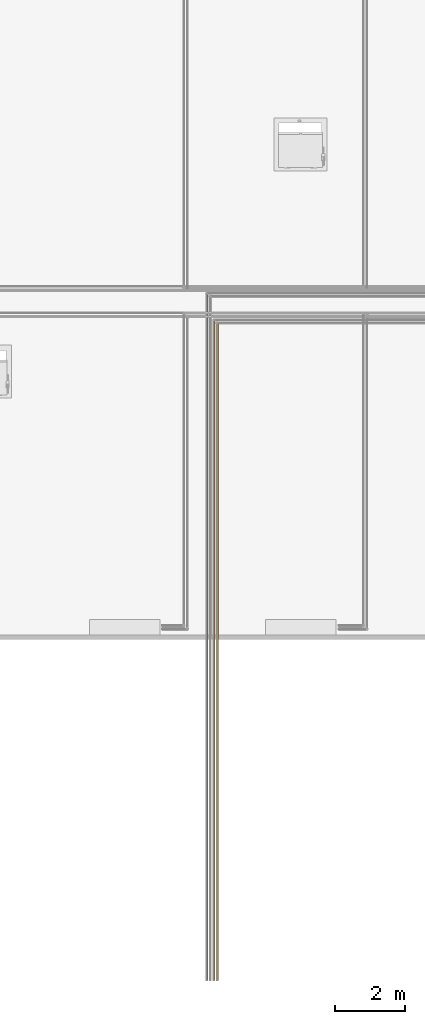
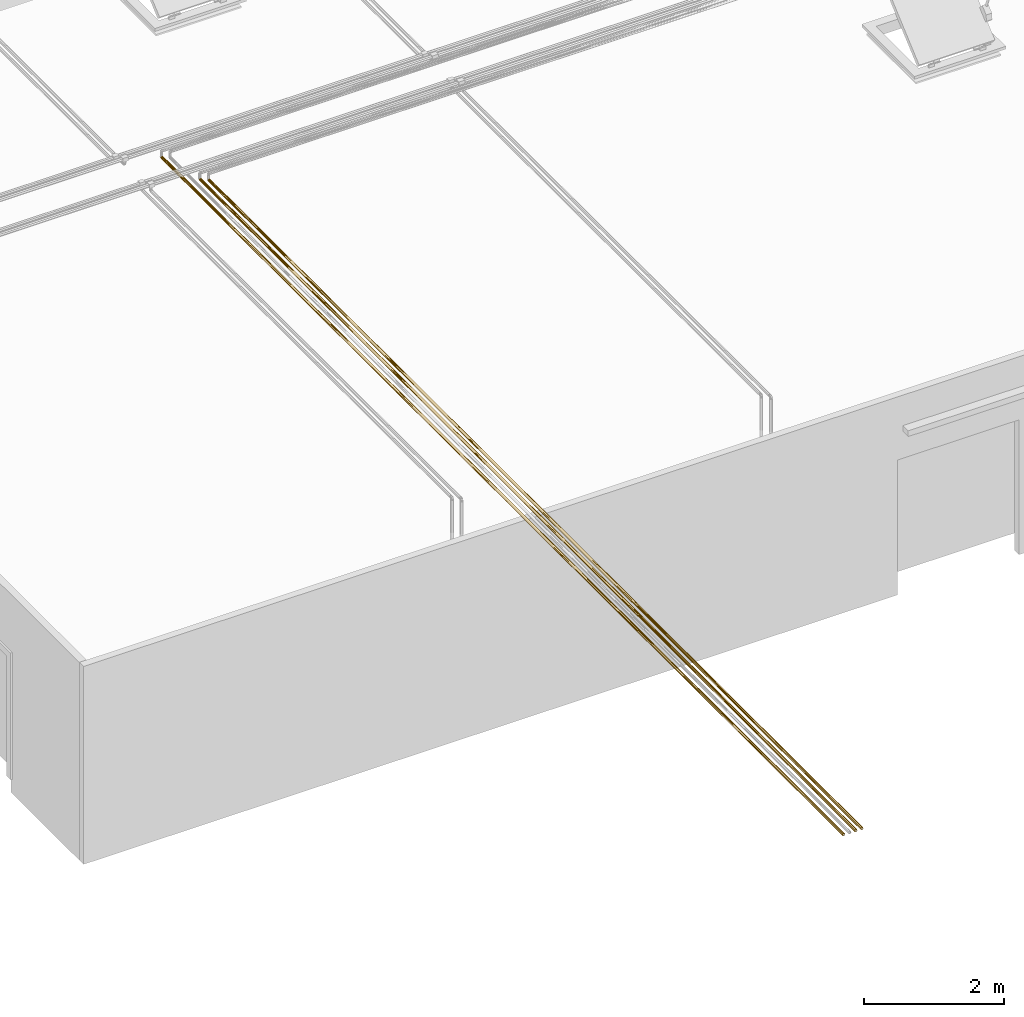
# One storey, part 98 of 652: 3 coverings.
"""IFC2X3 building model written with IfcOpenShell, lengths in millimetres."""

from ifc_helpers import new_model, entity, si_unit, converted_unit, direction, frame, origin, place, context, subcontext, project, spatial, faceted_brep, material, type_object, element, save


model = new_model("IFC2X3")

# Units and contexts
model_context = context("Model", 3, precision=0.01, world=frame((0.0, 0.0, 308426.39999999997)), true_north=direction((6.123233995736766e-17, 1.0)))
plan_context = context("Plan", 3, precision=0.01, world=frame((0.0, 0.0, 308426.39999999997)), true_north=direction((6.123233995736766e-17, 1.0)))
body_context = subcontext(model_context, "Body", "Model", "MODEL_VIEW")
ifc_project = project(units=[si_unit("LENGTHUNIT", "METRE", prefix="MILLI"), si_unit("AREAUNIT", "SQUARE_METRE"), si_unit("VOLUMEUNIT", "CUBIC_METRE"), converted_unit("PLANEANGLEUNIT", "DEGREE", entity("IfcPlaneAngleMeasure", 0.017453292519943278), si_unit("PLANEANGLEUNIT", "RADIAN"), dimensions=[0, 0, 0, 0, 0, 0, 0])], contexts=[model_context, plan_context])

# Site, building, storey
site_placement = place(None, origin())
site = spatial("IfcSite", under=ifc_project, at=site_placement, Name="Default", CompositionType="ELEMENT")
building_placement = place(site_placement, origin())
building = spatial("IfcBuilding", under=site, at=building_placement, CompositionType="ELEMENT")
storey_placement = place(building_placement, frame((0.0, 0.0, 1730.6999999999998)))
storey = spatial("IfcBuildingStorey", under=building, at=storey_placement, Name="EG_Produktion_FFB", CompositionType="ELEMENT", Elevation=1730.6999999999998)

# Coverings
ifc_material = material(Name="Dämmung - Armaflex-Schlauch")
covering_type = type_object("IfcCoveringType", Name="Rohrdämmung außen:Armaflex-Schlauch", PredefinedType="INSULATION")
covering_1_placement = place(storey_placement, frame((48024.64222775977, 21940.0, 3725.3577722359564)))
element("IfcCovering", 1, at=covering_1_placement, inside=storey, type_object=covering_type, material=ifc_material, Name="Rohrdämmung außen:Armaflex-Schlauch", ObjectType="Rohrdämmung außen:Armaflex-Schlauch", PredefinedType="INSULATION", context=body_context, shape_type="Brep", body=[
    faceted_brep([(9.787128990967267, 18717.04975000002, -7.40752223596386), (40.92841548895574, 18717.04975000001, -7.407522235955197), (43.95116498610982, 18717.04975000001, -11.448105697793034), (46.97391448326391, 18717.04975000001, -15.488689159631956), (47.971592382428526, 18717.04975000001, -20.076072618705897), (49.120272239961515, 18717.04975000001, -25.357772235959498), (47.08907098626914, 18717.04975000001, -30.261525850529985), (45.057869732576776, 18717.04975000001, -35.165279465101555), (42.160397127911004, 18717.04975000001, -42.16039712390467), (35.16527946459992, 18717.04975000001, -45.05786973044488), (30.261525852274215, 18717.04975000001, -47.08907098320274), (25.357772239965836, 18717.04975000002, -49.12027223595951), (20.45401862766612, 18717.04975000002, -47.08907098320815), (15.550265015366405, 18717.04975000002, -45.05786973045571), (8.555147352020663, 18717.04975000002, -42.16039712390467), (5.657674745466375, 18717.04975000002, -35.16527946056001), (3.6264734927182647, 18717.04975000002, -30.261525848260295), (1.5952722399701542, 18717.04975000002, -25.357772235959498), (2.743952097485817, 18717.04975000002, -20.076072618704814), (3.7416299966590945, 18717.04975000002, -15.488689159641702), (6.7643794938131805, 18717.04975000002, -11.448105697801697), (1.5952722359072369, 0.0, -25.357772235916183), (3.6264734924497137, 0.0, -30.26152584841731), (5.075209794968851, 0.0, -33.759084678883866), (6.815178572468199, 0.0, -37.95974090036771), (8.555147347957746, 0.0, -42.16039712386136), (15.550265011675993, 0.0, -45.057869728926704), (20.454018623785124, 0.0, -47.089070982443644), (25.357772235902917, 0.0, -49.1202722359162), (30.26152584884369, 0.0, -47.08907098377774), (33.75908468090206, 0.0, -45.64033468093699), (37.959740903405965, 0.0, -43.90036590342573), (42.16039712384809, 0.0, -42.16039712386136), (45.05786973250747, 0.0, -35.16527946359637), (47.089070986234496, 0.0, -30.26152584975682), (49.1202722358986, 0.0, -25.357772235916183), (47.08907098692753, 0.0, -20.454018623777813), (45.05786973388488, 0.0, -15.550265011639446), (43.60913342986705, 0.0, -12.052706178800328), (42.16039712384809, 0.0, -8.55514734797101), (37.95974090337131, 0.0, -6.815178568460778), (33.75908468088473, 0.0, -5.075209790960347), (29.558428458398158, 0.0, -3.335241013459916), (25.357772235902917, 0.0, -1.5952722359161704), (21.157116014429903, 0.0, -3.3352410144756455), (16.95645979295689, 0.0, -5.075209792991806), (12.755803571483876, 0.0, -6.815178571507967), (8.555147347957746, 0.0, -8.55514734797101), (7.106411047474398, 0.0, -12.052706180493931), (5.657674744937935, 0.0, -15.550265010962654), (3.6264734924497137, 0.0, -20.45401862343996), (47.72953546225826, 7703.731533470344, -33.3678044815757), (44.67110823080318, 11913.050422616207, -39.20159609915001), (49.120272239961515, 7823.6481115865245, -25.35777223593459), (49.120272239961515, 13270.348935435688, -25.357772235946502), (39.201596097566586, 11987.942752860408, -44.67110823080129), (43.2116228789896, 6088.580092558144, -41.038857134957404), (25.3577722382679, 10893.394085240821, -49.12027223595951), (32.57646349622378, 12176.570894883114, -47.99727096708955), (45.756322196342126, 7729.808308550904, -37.54610952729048), (38.55950989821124, 5111.442809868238, -45.11556890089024), (25.357772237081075, 5446.697042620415, -49.12027223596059), (25.35777223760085, 7823.637981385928, -49.12027223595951), (11.51394838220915, 11913.05042761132, -44.671108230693), (9.676687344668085, 6088.580094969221, -43.211622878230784), (17.347739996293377, 7703.731535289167, -47.729535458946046), (6.044436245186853, 11987.942746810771, -39.2015960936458), (1.5952722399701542, 10893.96622775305, -25.357772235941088), (2.7182735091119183, 12176.570896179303, -32.57646349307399), (13.169434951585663, 7729.8083142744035, -45.75632219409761), (5.599975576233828, 5111.442806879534, -38.559509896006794), (1.5952722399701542, 5447.376312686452, -25.357772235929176), (1.5952722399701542, 7823.864812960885, -25.35777223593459), (1.5952722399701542, 13270.065186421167, -25.357772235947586), (9.26595457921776, 5766.2097812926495, -7.8732130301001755), (13.220073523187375, 8901.297188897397, -4.929050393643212), (25.357772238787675, 13264.491549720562, -1.595272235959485), (25.357772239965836, 18711.237500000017, -1.595272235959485), (20.026201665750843, 18712.200150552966, -2.5579227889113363), (2.9860090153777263, 6515.924416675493, -17.347739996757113), (9.30860668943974, 11132.515670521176, -7.834054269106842), (20.517123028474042, 4886.284350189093, -2.093539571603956), (18.989176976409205, 11310.077719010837, -2.46459856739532), (25.357772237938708, 9355.573241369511, -1.5952722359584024), (6.044436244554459, 9007.13090313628, -11.513948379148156), (13.417429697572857, 18714.89384168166, -5.2516139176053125), (17.04773040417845, 18712.737933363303, -3.0957055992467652), (44.671108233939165, 9007.130898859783, -11.513948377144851), (41.40693779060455, 11132.51566770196, -7.834054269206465), (31.726367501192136, 11310.077716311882, -2.4645985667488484), (30.68934281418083, 18712.200150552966, -2.5579227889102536), (37.29811478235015, 18714.89384168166, -5.2516139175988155), (37.49547095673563, 8901.297190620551, -4.929050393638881), (33.66781407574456, 18712.737933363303, -3.0957055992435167), (47.72953546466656, 6515.924417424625, -17.347739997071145), (41.44958989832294, 5766.209780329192, -7.873213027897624), (30.198421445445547, 4886.284349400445, -2.0935395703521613)], [[[0, 1, 2, 3, 4, 5, 6, 7, 8, 9, 10, 11, 12, 13, 14, 15, 16, 17, 18, 19, 20]], [[21, 22, 23, 24, 25, 26, 27, 28, 29, 30, 31, 32, 33, 34, 35, 36, 37, 38, 39, 40, 41, 42, 43, 44, 45, 46, 47, 48, 49, 50]], [[7, 51, 52]], [[51, 7, 6]], [[52, 8, 7]], [[53, 35, 34]], [[6, 5, 54, 53]], [[55, 9, 8]], [[53, 34, 51]], [[32, 56, 33]], [[57, 10, 58]], [[34, 33, 51]], [[59, 33, 56]], [[52, 55, 8]], [[9, 55, 58]], [[6, 53, 51]], [[32, 60, 56]], [[60, 32, 31]], [[58, 61, 62, 57]], [[58, 60, 30]], [[58, 29, 61]], [[58, 55, 60]], [[29, 58, 30]], [[29, 28, 61]], [[10, 57, 11]], [[10, 9, 58]], [[56, 55, 52]], [[55, 56, 60]], [[56, 52, 59]], [[52, 51, 59]], [[31, 30, 60]], [[33, 59, 51]], [[13, 63, 14]], [[12, 11, 57, 62]], [[27, 62, 61, 28]], [[25, 64, 26]], [[27, 26, 65]], [[66, 15, 14]], [[65, 13, 12]], [[13, 65, 63]], [[67, 16, 68]], [[62, 27, 65]], [[69, 26, 64]], [[63, 66, 14]], [[15, 66, 68]], [[12, 62, 65]], [[25, 70, 64]], [[70, 25, 24, 23]], [[68, 71, 72, 67]], [[68, 70, 23]], [[68, 22, 71]], [[68, 66, 70]], [[22, 68, 23]], [[22, 21, 71]], [[16, 67, 73, 17]], [[16, 15, 68]], [[64, 66, 63]], [[66, 64, 70]], [[64, 63, 69]], [[63, 65, 69]], [[26, 69, 65]], [[48, 47, 74]], [[75, 74, 46]], [[76, 77, 78]], [[50, 49, 79]], [[80, 0, 20]], [[75, 45, 81]], [[82, 81, 83]], [[84, 48, 74]], [[81, 43, 83]], [[82, 85, 75]], [[84, 19, 79]], [[85, 0, 80]], [[79, 18, 73]], [[74, 75, 80]], [[50, 72, 71, 21]], [[20, 84, 80]], [[72, 50, 79]], [[80, 84, 74]], [[84, 49, 48]], [[46, 45, 75]], [[85, 80, 75]], [[49, 84, 79]], [[19, 84, 20]], [[74, 47, 46]], [[82, 78, 86]], [[76, 82, 83]], [[85, 82, 86]], [[75, 81, 82]], [[81, 45, 44, 43]], [[79, 73, 67, 72]], [[76, 78, 82]], [[18, 79, 19]], [[18, 17, 73]], [[87, 2, 88]], [[89, 90, 76]], [[88, 91, 92]], [[89, 91, 93]], [[36, 94, 37]], [[36, 53, 94]], [[95, 39, 38]], [[39, 95, 40]], [[92, 40, 95]], [[92, 95, 88]], [[2, 87, 3]], [[87, 38, 37]], [[92, 89, 96]], [[4, 94, 54]], [[96, 43, 42, 41]], [[36, 35, 53]], [[94, 4, 3]], [[89, 83, 96]], [[88, 95, 87]], [[92, 41, 40]], [[94, 53, 54]], [[91, 88, 1]], [[87, 37, 94]], [[1, 88, 2]], [[95, 38, 87]], [[91, 89, 92]], [[76, 83, 89]], [[76, 90, 77]], [[43, 96, 83]], [[92, 96, 41]], [[93, 90, 89]], [[54, 5, 4]], [[3, 87, 94]], [[93, 91, 1, 0, 85, 86, 78, 77, 90]]]),
])
covering_2_placement = place(storey_placement, frame((48124.64222775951, 21940.0, 3725.357772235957)))
element("IfcCovering", 2, at=covering_2_placement, inside=storey, type_object=covering_type, material=ifc_material, Name="Rohrdämmung außen:Armaflex-Schlauch", ObjectType="Rohrdämmung außen:Armaflex-Schlauch", PredefinedType="INSULATION", context=body_context, shape_type="Brep", body=[
    faceted_brep([(9.78712898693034, 18642.04975000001, -7.407522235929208), (40.92841548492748, 18642.04975000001, -7.407522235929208), (43.95116498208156, 18642.04975000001, -11.448105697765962), (46.973914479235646, 18642.04975000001, -15.48868915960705), (47.97159237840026, 18642.04975000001, -20.076072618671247), (49.12027223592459, 18642.04975000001, -25.357772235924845), (47.38030345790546, 18642.04975000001, -29.558428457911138), (45.640334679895, 18642.04975000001, -33.759084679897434), (43.90036590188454, 18642.04975000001, -37.95974090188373), (42.16039712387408, 18642.04975000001, -42.16039712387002), (37.95974090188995, 18642.04975000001, -43.90036590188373), (33.759084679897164, 18642.049750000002, -45.640334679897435), (29.558428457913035, 18642.049750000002, -47.38030345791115), (25.357772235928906, 18642.04975000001, -49.12027223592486), (21.157116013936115, 18642.04975000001, -47.38030345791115), (16.95645979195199, 18642.04975000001, -45.640334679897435), (12.755803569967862, 18642.04975000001, -43.90036590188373), (8.555147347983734, 18642.04975000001, -42.16039712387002), (6.8151785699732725, 18642.04975000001, -37.95974090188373), (5.075209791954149, 18642.049750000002, -33.759084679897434), (3.335241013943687, 18642.04975000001, -29.558428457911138), (1.5952722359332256, 18642.04975000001, -25.357772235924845), (2.743952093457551, 18642.04975000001, -20.076072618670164), (3.7416299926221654, 18642.04975000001, -15.48868915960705), (6.764379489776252, 18642.04975000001, -11.44810569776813), (1.5952722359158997, 0.0, -25.3577722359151), (3.626473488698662, 0.0, -30.261525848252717), (5.657674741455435, 0.0, -35.165279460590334), (8.55514734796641, 0.0, -42.16039712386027), (12.755803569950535, 0.0, -43.90036590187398), (16.956459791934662, 0.0, -45.64033467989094), (20.45401862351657, 0.0, -47.089070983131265), (25.35777223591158, 0.0, -49.12027223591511), (30.26152584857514, 0.0, -47.08907098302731), (35.1652794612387, 0.0, -45.05786973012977), (42.160397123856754, 0.0, -42.16039712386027), (43.90036590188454, 0.0, -37.95974090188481), (45.640334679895, 0.0, -33.75908467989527), (47.08907098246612, 0.0, -30.26152584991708), (49.12027223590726, 0.0, -25.3577722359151), (47.089070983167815, 0.0, -20.45401862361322), (45.057869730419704, 0.0, -15.550265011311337), (43.609133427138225, 0.0, -12.052706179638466), (42.160397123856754, 0.0, -8.555147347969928), (37.95974090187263, 0.0, -6.815178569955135), (33.759084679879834, 0.0, -5.075209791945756), (29.558428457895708, 0.0, -3.335241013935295), (25.35777223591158, 0.0, -1.5952722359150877), (21.157116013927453, 0.0, -3.3352410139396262), (16.95645979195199, 0.0, -5.0752097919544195), (12.755803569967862, 0.0, -6.815178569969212), (8.55514734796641, 0.0, -8.555147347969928), (7.106411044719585, 0.0, -12.052706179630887), (5.657674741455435, 0.0, -15.550265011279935), (3.626473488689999, 0.0, -20.45401862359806), (47.980653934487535, 6800.559258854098, -32.62837261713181), (45.11556889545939, 9321.024872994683, -38.55950990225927), (48.49864011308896, 13199.141128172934, -30.757461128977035), (49.12027223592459, 13195.348935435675, -25.357772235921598), (49.12027223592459, 9321.024875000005, -25.357772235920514), (47.21249149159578, 10961.462685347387, -34.686633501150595), (42.83257269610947, 5342.371065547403, -41.46018681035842), (41.91085682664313, 12638.422133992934, -42.40628527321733), (30.783196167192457, 13172.681599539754, -48.4926200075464), (36.478510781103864, 12965.902244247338, -46.35742891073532), (32.44443513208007, 6705.081892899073, -48.03894538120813), (39.201596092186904, 7772.854735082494, -44.671108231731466), (25.357772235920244, 9320.959538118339, -49.12027223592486), (49.12027223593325, 7748.648120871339, -25.357772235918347), (19.958083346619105, 13199.141132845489, -48.49864011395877), (8.671669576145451, 9796.528938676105, -42.276116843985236), (12.156034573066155, 9321.024874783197, -45.11556889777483), (18.087171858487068, 6800.559261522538, -47.98065393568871), (9.255357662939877, 5342.3710667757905, -42.83257269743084), (16.028910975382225, 10961.462686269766, -47.21249149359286), (2.2229244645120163, 13172.68159925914, -30.783196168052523), (4.358115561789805, 12965.902245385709, -36.478510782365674), (2.6765990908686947, 6705.081893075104, -32.444435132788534), (6.044436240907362, 7772.854736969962, -39.20159609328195), (1.5952722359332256, 7748.49321888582, -25.35777223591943), (1.5952722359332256, 9321.486746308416, -25.357772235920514), (1.5952722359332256, 13195.271484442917, -25.357772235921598), (9.25657111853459, 5760.916198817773, -7.88185369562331), (13.220089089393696, 8861.956052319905, -4.929041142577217), (25.357772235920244, 13189.536685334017, -1.5952722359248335), (25.357772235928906, 18636.237500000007, -1.5952722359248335), (20.026201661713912, 18637.200150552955, -2.5579227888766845), (2.986009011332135, 6516.084068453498, -17.347739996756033), (9.315412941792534, 11136.936398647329, -7.8278231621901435), (20.535654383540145, 4849.419446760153, -2.0896914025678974), (6.044436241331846, 9007.708101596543, -11.513948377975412), (18.98949690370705, 11253.827717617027, -2.4645095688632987), (25.357772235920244, 9318.118750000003, -1.5952722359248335), (13.417429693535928, 18639.893841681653, -5.251613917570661), (17.047730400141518, 18637.737933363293, -3.0957055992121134), (31.72604756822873, 11253.827717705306, -2.464509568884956), (30.6893428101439, 18637.200150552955, -2.5579227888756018), (37.495455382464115, 8861.956052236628, -4.9290411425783), (30.179890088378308, 4849.4194467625, -2.0896914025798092), (41.40013153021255, 11136.936398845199, -7.827823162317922), (37.29811477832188, 18639.893841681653, -5.2516139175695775), (33.66781407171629, 18637.737933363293, -3.0957055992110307), (41.45897335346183, 5760.9161988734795, -7.881853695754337), (44.6711082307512, 9007.708101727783, -11.513948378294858), (47.729535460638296, 6516.08406832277, -17.347739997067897)], [[[0, 1, 2, 3, 4, 5, 6, 7, 8, 9, 10, 11, 12, 13, 14, 15, 16, 17, 18, 19, 20, 21, 22, 23, 24]], [[25, 26, 27, 28, 29, 30, 31, 32, 33, 34, 35, 36, 37, 38, 39, 40, 41, 42, 43, 44, 45, 46, 47, 48, 49, 50, 51, 52, 53, 54]], [[55, 39, 38, 37, 36]], [[55, 36, 56]], [[57, 5, 58, 59]], [[7, 60, 8]], [[56, 61, 62]], [[55, 57, 59]], [[63, 64, 65]], [[34, 66, 35]], [[34, 65, 66]], [[65, 34, 33, 32]], [[62, 64, 10]], [[32, 67, 65]], [[63, 13, 12, 11]], [[63, 65, 67]], [[13, 63, 67]], [[64, 63, 11]], [[10, 9, 62]], [[65, 64, 66]], [[64, 11, 10]], [[62, 8, 56]], [[61, 35, 66]], [[36, 35, 61]], [[60, 7, 57]], [[55, 59, 68, 39]], [[60, 57, 55]], [[57, 7, 6, 5]], [[64, 62, 66]], [[8, 62, 9]], [[62, 61, 66]], [[36, 61, 56]], [[55, 56, 60]], [[60, 56, 8]], [[69, 13, 67]], [[70, 16, 71]], [[30, 29, 72, 32, 31]], [[72, 29, 71]], [[71, 73, 70]], [[16, 15, 74]], [[75, 76, 77]], [[27, 78, 28]], [[72, 69, 67]], [[27, 77, 78]], [[77, 27, 26, 25]], [[17, 70, 76]], [[77, 25, 79, 80]], [[75, 21, 20, 19]], [[75, 77, 80]], [[75, 80, 81, 21]], [[76, 75, 19]], [[76, 19, 18, 17]], [[77, 76, 78]], [[73, 78, 70]], [[29, 28, 73]], [[74, 15, 69]], [[32, 72, 67]], [[74, 69, 72]], [[69, 15, 14, 13]], [[29, 73, 71]], [[28, 78, 73]], [[76, 70, 78]], [[16, 70, 17]], [[72, 71, 74]], [[74, 71, 16]], [[52, 51, 82]], [[83, 82, 50]], [[84, 85, 86]], [[54, 53, 87]], [[88, 0, 24]], [[83, 49, 89]], [[90, 52, 82]], [[91, 89, 92]], [[89, 47, 92]], [[91, 93, 83]], [[90, 23, 87]], [[93, 0, 88]], [[87, 22, 81]], [[90, 53, 52]], [[79, 25, 54]], [[24, 90, 88]], [[79, 54, 87]], [[88, 90, 82]], [[50, 49, 83]], [[88, 82, 83]], [[93, 88, 83]], [[53, 90, 87]], [[23, 90, 24]], [[82, 51, 50]], [[91, 86, 94]], [[84, 91, 92]], [[93, 91, 94]], [[83, 89, 91]], [[89, 49, 48, 47]], [[87, 81, 80, 79]], [[84, 86, 91]], [[22, 87, 23]], [[22, 21, 81]], [[95, 96, 84]], [[97, 95, 98]], [[99, 100, 97]], [[95, 100, 101]], [[102, 43, 42]], [[103, 2, 99]], [[104, 4, 3]], [[2, 103, 3]], [[40, 104, 41]], [[97, 102, 99]], [[97, 44, 102]], [[103, 42, 41]], [[43, 102, 44]], [[40, 68, 104]], [[98, 47, 46, 45]], [[40, 39, 68]], [[58, 5, 4]], [[95, 92, 98]], [[99, 102, 103]], [[97, 45, 44]], [[104, 68, 59, 58]], [[100, 99, 1]], [[103, 41, 104]], [[1, 99, 2]], [[102, 42, 103]], [[100, 95, 97]], [[84, 92, 95]], [[84, 96, 85]], [[47, 98, 92]], [[97, 98, 45]], [[101, 96, 95]], [[104, 3, 103]], [[58, 4, 104]], [[1, 0, 93, 94, 86, 85, 96, 101, 100]]]),
])
covering_3_placement = place(storey_placement, frame((47824.64222775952, 21940.0, 3725.357772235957)))
element("IfcCovering", 3, at=covering_3_placement, inside=storey, type_object=covering_type, material=ifc_material, Name="Rohrdämmung außen:Armaflex-Schlauch", ObjectType="Rohrdämmung außen:Armaflex-Schlauch", PredefinedType="INSULATION", context=body_context, shape_type="Brep", body=[
    faceted_brep([(9.787128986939, 19467.048199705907, -7.407522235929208), (40.92841548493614, 19467.048199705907, -7.407522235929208), (43.951164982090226, 19467.048199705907, -11.448105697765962), (46.97391447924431, 19467.048199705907, -15.48868915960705), (48.04709335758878, 19467.048199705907, -20.423230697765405), (49.12027223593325, 19467.048199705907, -25.357772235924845), (47.08907098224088, 19467.048199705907, -30.261525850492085), (45.05786972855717, 19467.048199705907, -35.16527946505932), (42.16039712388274, 19467.048199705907, -42.16039712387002), (35.165279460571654, 19467.048199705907, -45.057869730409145), (30.26152584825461, 19467.048199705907, -47.089070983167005), (25.35777223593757, 19467.048199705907, -49.12027223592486), (20.454018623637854, 19467.048199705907, -47.08907098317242), (15.550265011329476, 19467.048199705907, -45.05786973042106), (8.555147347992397, 19467.048199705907, -42.16039712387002), (5.657674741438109, 19467.048199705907, -35.16527946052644), (3.626473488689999, 19467.048199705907, -30.261525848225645), (1.5952722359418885, 19467.048199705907, -25.357772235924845), (2.6684511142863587, 19467.048199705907, -20.423230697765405), (3.7416299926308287, 19467.048199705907, -15.48868915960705), (6.764379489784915, 19467.048199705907, -11.44810569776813), (1.5952722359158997, 0.0, -25.3577722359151), (3.6264734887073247, 0.0, -30.261525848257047), (5.657674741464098, 0.0, -35.16527946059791), (8.55514734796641, 0.0, -42.16039712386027), (15.550265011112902, 0.0, -45.05786973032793), (20.45401862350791, 0.0, -47.08907098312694), (25.35777223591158, 0.0, -49.12027223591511), (30.261525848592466, 0.0, -47.0890709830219), (35.16527946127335, 0.0, -45.05786973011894), (42.160397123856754, 0.0, -42.16039712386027), (45.05786972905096, 0.0, -35.16527946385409), (47.0890709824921, 0.0, -30.261525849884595), (49.12027223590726, 0.0, -25.3577722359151), (47.08907098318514, 0.0, -20.45401862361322), (45.057869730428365, 0.0, -15.550265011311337), (42.160397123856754, 0.0, -8.555147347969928), (37.95974090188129, 0.0, -6.815178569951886), (33.759084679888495, 0.0, -5.075209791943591), (29.558428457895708, 0.0, -3.335241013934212), (25.35777223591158, 0.0, -1.5952722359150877), (21.157116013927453, 0.0, -3.3352410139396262), (16.956459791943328, 0.0, -5.075209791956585), (12.755803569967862, 0.0, -6.815178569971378), (8.55514734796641, 0.0, -8.555147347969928), (5.657674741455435, 0.0, -15.550265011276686), (3.626473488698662, 0.0, -20.454018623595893), (47.72953545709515, 11720.022815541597, -33.36780448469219), (49.12027223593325, 10893.401638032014, -25.357772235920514), (44.67110822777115, 7079.123423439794, -39.20159609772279), (39.20159609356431, 11445.690467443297, -44.671108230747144), (49.12027223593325, 8573.646570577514, -25.35777223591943), (36.89268944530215, 5991.590809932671, -46.132807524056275), (31.26235720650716, 5449.173749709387, -48.37498932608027), (25.357772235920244, 8573.631106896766, -49.12027223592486), (25.357772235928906, 9733.524099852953, -49.12027223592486), (32.39520581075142, 12700.06678501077, -48.054268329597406), (41.147210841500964, 6784.049105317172, -43.11586995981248), (11.513948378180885, 12387.924771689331, -44.67110823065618), (17.347739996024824, 7747.02537449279, -47.729535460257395), (6.044436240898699, 8021.357734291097, -39.201596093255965), (4.582736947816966, 13475.457390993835, -36.89268944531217), (7.599674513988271, 12682.999096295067, -41.14721084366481), (2.340555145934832, 14017.874449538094, -31.2623572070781), (2.6612761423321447, 6766.981413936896, -32.395205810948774), (1.5952722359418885, 8573.492242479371, -25.35777223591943), (1.5952722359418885, 9733.969508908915, -25.357772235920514), (6.044436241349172, 9010.761814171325, -11.513948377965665), (13.219917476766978, 9293.92752741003, -4.929143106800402), (9.362147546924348, 5823.737119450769, -7.7851686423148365), (25.357772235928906, 14014.535135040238, -1.5952722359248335), (25.35777223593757, 19461.235949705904, -1.5952722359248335), (20.026201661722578, 19462.198600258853, -2.5579227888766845), (2.9860090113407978, 6516.928987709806, -17.347739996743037), (9.249813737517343, 11100.865535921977, -7.888081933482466), (20.327816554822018, 5251.339233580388, -2.133733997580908), (18.986098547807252, 11872.576554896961, -2.4654551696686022), (25.357772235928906, 9730.617974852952, -1.5952722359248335), (13.417429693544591, 19464.892291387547, -5.251613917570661), (2.2511033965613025, 13546.589743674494, -19.813562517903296), (3.7363647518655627, 11233.55350165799, -15.500229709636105), (17.047730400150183, 19462.73638306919, -3.0957055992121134), (31.729445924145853, 11872.576554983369, -2.4654551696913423), (30.689342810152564, 19462.198600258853, -2.5579227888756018), (37.49562699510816, 9293.927527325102, -4.929143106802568), (30.3877279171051, 5251.339233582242, -2.13373399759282), (41.465730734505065, 11100.865536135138, -7.888081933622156), (37.29811477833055, 19464.892291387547, -5.2516139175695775), (33.667814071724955, 19462.73638306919, -3.0957055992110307), (41.35339692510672, 5823.737119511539, -7.785168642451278), (44.67110823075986, 9010.761814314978, -11.513948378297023), (47.72953546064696, 6516.928987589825, -17.347739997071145), (46.979179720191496, 11233.553500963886, -15.500229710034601), (48.46444107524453, 13546.589743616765, -19.813562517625)], [[[0, 1, 2, 3, 4, 5, 6, 7, 8, 9, 10, 11, 12, 13, 14, 15, 16, 17, 18, 19, 20]], [[21, 22, 23, 24, 25, 26, 27, 28, 29, 30, 31, 32, 33, 34, 35, 36, 37, 38, 39, 40, 41, 42, 43, 44, 45, 46]], [[47, 6, 48]], [[31, 47, 32]], [[48, 32, 47]], [[49, 7, 47]], [[50, 8, 49]], [[7, 6, 47]], [[6, 5, 48]], [[32, 48, 51, 33]], [[29, 52, 30]], [[49, 31, 30]], [[8, 50, 9]], [[7, 49, 8]], [[53, 27, 54, 55]], [[56, 11, 10, 9]], [[57, 30, 52]], [[9, 50, 56]], [[56, 53, 55]], [[53, 52, 29]], [[52, 56, 50]], [[53, 29, 28, 27]], [[56, 52, 53]], [[52, 50, 57]], [[50, 49, 57]], [[30, 57, 49]], [[47, 31, 49]], [[11, 56, 55]], [[13, 58, 14]], [[12, 11, 55, 54]], [[54, 27, 26]], [[25, 24, 58]], [[26, 25, 59]], [[23, 60, 24]], [[59, 13, 12]], [[13, 59, 58]], [[61, 62, 60]], [[54, 26, 59]], [[25, 58, 59]], [[63, 17, 16, 15]], [[61, 64, 63]], [[64, 60, 23]], [[58, 24, 60]], [[64, 21, 65, 66]], [[14, 58, 62]], [[64, 23, 22, 21]], [[63, 64, 66]], [[17, 63, 66]], [[61, 63, 15]], [[14, 61, 15]], [[64, 61, 60]], [[14, 62, 61]], [[58, 60, 62]], [[12, 54, 59]], [[44, 67, 45]], [[68, 69, 43]], [[70, 71, 72]], [[46, 45, 73]], [[74, 0, 20]], [[68, 42, 75]], [[45, 67, 73]], [[76, 75, 77]], [[75, 40, 77]], [[76, 78, 68]], [[79, 17, 66, 65]], [[78, 0, 74]], [[79, 65, 73]], [[69, 68, 74]], [[65, 21, 46]], [[67, 74, 20]], [[65, 46, 73]], [[67, 80, 73]], [[79, 19, 18, 17]], [[74, 67, 69]], [[67, 44, 69]], [[43, 42, 68]], [[78, 74, 68]], [[79, 80, 19]], [[69, 44, 43]], [[80, 20, 19]], [[76, 72, 81]], [[70, 76, 77]], [[78, 76, 81]], [[68, 75, 76]], [[75, 42, 41, 40]], [[80, 67, 20]], [[70, 72, 76]], [[79, 73, 80]], [[82, 83, 70]], [[84, 82, 85]], [[86, 87, 84]], [[82, 87, 88]], [[89, 90, 86]], [[90, 91, 92]], [[93, 5, 4, 3]], [[90, 92, 2]], [[34, 91, 35]], [[84, 89, 86]], [[35, 91, 90]], [[90, 36, 35]], [[84, 37, 89]], [[34, 51, 91]], [[85, 40, 39, 38]], [[34, 33, 51]], [[93, 91, 51]], [[93, 51, 48, 5]], [[90, 2, 86]], [[82, 77, 85]], [[87, 82, 84]], [[36, 90, 89]], [[2, 92, 3]], [[87, 86, 1]], [[37, 84, 38]], [[1, 86, 2]], [[37, 36, 89]], [[70, 77, 82]], [[70, 83, 71]], [[40, 85, 77]], [[84, 85, 38]], [[91, 93, 92]], [[88, 83, 82]], [[3, 92, 93]], [[1, 0, 78, 81, 72, 71, 83, 88, 87]]]),
])

save(model, "model.ifc")
